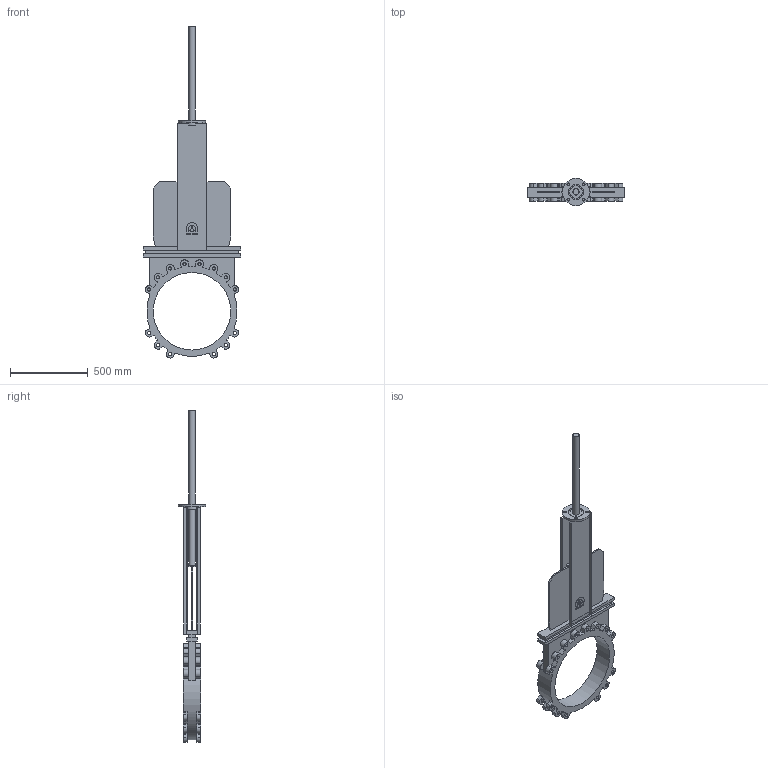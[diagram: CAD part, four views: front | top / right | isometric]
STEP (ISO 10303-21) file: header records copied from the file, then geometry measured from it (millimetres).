
FILE_DESCRIPTION(('STEP AP203'), '1');
FILE_NAME('K21GVA_DN500', '', ('UNSPECIFIED'), ('UNSPECIFIED'), 'ASCON STEP Converter 1.6', 'ASCON Math Kernel', '');
FILE_SCHEMA(('CONFIG_CONTROL_DESIGN'));
Length unit declared in the file: millimetre
Bounding box: 630 x 175 x 2141.41 mm (x, y, z)
Volume: 18817909.2 mm3; surface area: 2303582.4 mm2
Topology: 1 solids, 1 shells, 316 faces, 901 edges, 594 vertices
Faces by surface type: plane 153, cylinder 146, cone 17
Full cylindrical faces by diameter (mm): 18 x4, 20.752 x28, 40 x2, 80 x1, 100 x1, 175 x1, 500 x1
Entity records: 12604 total; most frequent: DIRECTION 1798, CARTESIAN_POINT 1725, ORIENTED_EDGE 1660, EDGE_CURVE 830, AXIS2_PLACEMENT_3D 651, VERTEX_POINT 578, LINE 496, VECTOR 496
